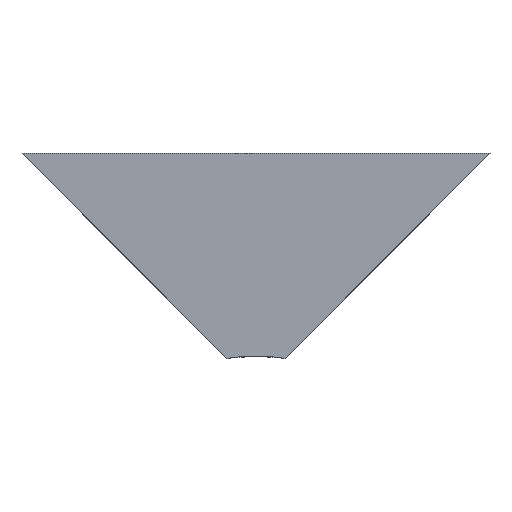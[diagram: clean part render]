
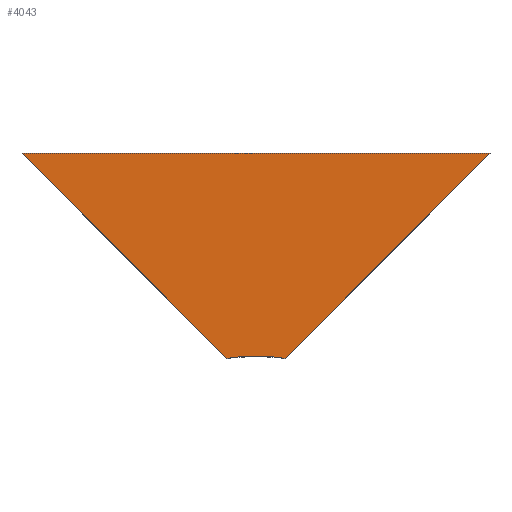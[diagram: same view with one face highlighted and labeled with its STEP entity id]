
A CAD part, top view. The second image highlights one B-rep face of the part: STEP entity #4043.
In plain terms, the highlighted planar face has unit normal (0, 0, 1).
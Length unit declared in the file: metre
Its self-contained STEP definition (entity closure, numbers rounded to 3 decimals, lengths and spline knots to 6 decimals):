
#24=CIRCLE('',#4296,0.035786);
#225=ORIENTED_EDGE('',*,*,#1362,.F.);
#226=ORIENTED_EDGE('',*,*,#1357,.T.);
#227=ORIENTED_EDGE('',*,*,#1361,.T.);
#228=ORIENTED_EDGE('',*,*,#1363,.F.);
#1357=EDGE_CURVE('',#1927,#1928,#2304,.T.);
#1361=EDGE_CURVE('',#1928,#1929,#2308,.T.);
#1362=EDGE_CURVE('',#1927,#1930,#24,.T.);
#1363=EDGE_CURVE('',#1930,#1929,#2309,.T.);
#1927=VERTEX_POINT('',#5965);
#1928=VERTEX_POINT('',#5966);
#1929=VERTEX_POINT('',#5971);
#1930=VERTEX_POINT('',#5975);
#2304=LINE('',#5964,#2868);
#2308=LINE('',#5972,#2872);
#2309=LINE('',#5976,#2873);
#2868=VECTOR('',#4730,1.);
#2872=VECTOR('',#4736,1.);
#2873=VECTOR('',#4741,1.);
#3292=EDGE_LOOP('',(#225,#226,#227,#228));
#3572=FACE_BOUND('',#3292,.T.);
#3808=PLANE('',#4295);
#4043=ADVANCED_FACE('',(#3572),#3808,.T.);
#4295=AXIS2_PLACEMENT_3D('',#5973,#4737,#4738);
#4296=AXIS2_PLACEMENT_3D('',#5974,#4739,#4740);
#4730=DIRECTION('',(0.707,0.707,0.));
#4736=DIRECTION('',(-1.,0.,0.));
#4737=DIRECTION('',(0.,0.,1.));
#4738=DIRECTION('',(1.,0.,0.));
#4739=DIRECTION('',(0.,0.,1.));
#4740=DIRECTION('',(1.,0.,0.));
#4741=DIRECTION('',(-0.707,0.707,0.));
#5964=CARTESIAN_POINT('',(0.025,0.025,0.051));
#5965=CARTESIAN_POINT('',(0.006198,0.006198,0.051));
#5966=CARTESIAN_POINT('',(0.05,0.05,0.051));
#5971=CARTESIAN_POINT('',(-0.05,0.05,0.051));
#5972=CARTESIAN_POINT('',(0.025,0.05,0.051));
#5973=CARTESIAN_POINT('',(0.,0.,0.051));
#5974=CARTESIAN_POINT('',(0.,-0.029047,0.051));
#5975=CARTESIAN_POINT('',(-0.006198,0.006198,0.051));
#5976=CARTESIAN_POINT('',(-0.025,0.025,0.051));
